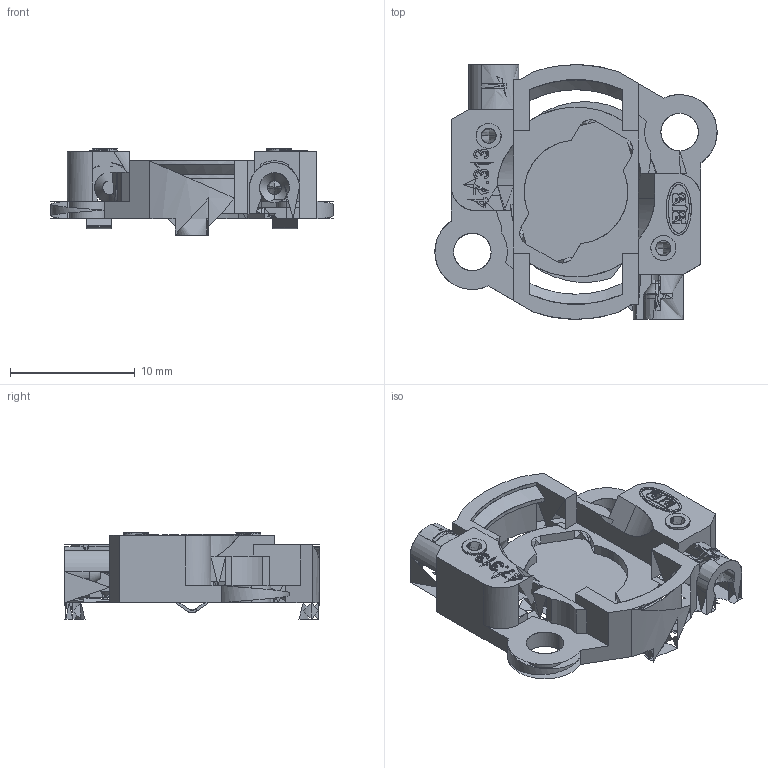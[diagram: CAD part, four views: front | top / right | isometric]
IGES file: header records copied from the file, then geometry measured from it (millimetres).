
Global section: file name: C:\Programme\core_technologie\in\01GY30FY03.igs; native system: CT CoreTechnologie 3D Evolution; preprocessor: 2006; author: assmuth; date: 090128.102719; units: millimetre
Bounding box: 22.6 x 20.4 x 6.9 mm (x, y, z)
Surface area: 1235.6 mm2 (no closed solid volume)
Topology: 0 solids, 0 shells, 324 faces, 1742 edges, 1610 vertices
Faces by surface type: bspline 324
